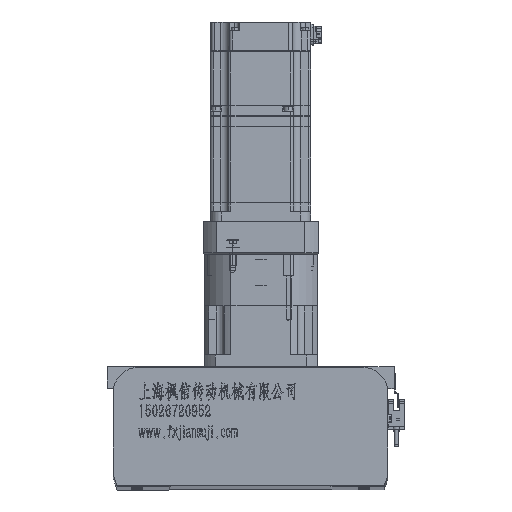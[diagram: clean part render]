
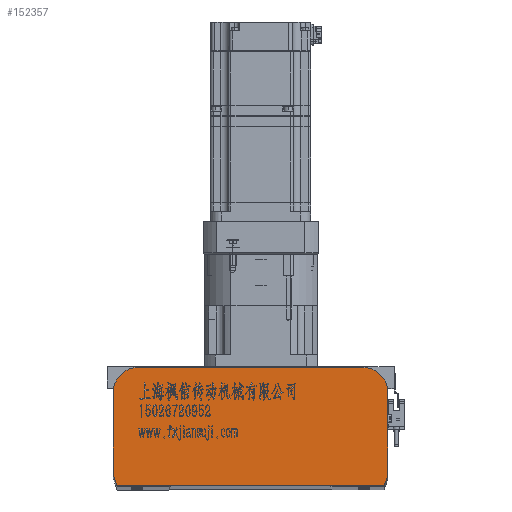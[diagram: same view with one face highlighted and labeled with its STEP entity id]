
A CAD part, top view. The second image highlights one B-rep face of the part: STEP entity #152357.
In plain terms, the highlighted planar face has unit normal (0, 0, 1).
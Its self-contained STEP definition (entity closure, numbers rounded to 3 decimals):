
#788 = AXIS2_PLACEMENT_3D ( 'NONE', #41191, #1766, #15190 ) ;
#1766 = DIRECTION ( 'NONE',  ( 0., 0., 1. ) ) ;
#7349 = DIRECTION ( 'NONE',  ( 0., 1., 0. ) ) ;
#7561 = EDGE_CURVE ( 'NONE', #93688, #109196, #78986, .T. ) ;
#9851 = EDGE_CURVE ( 'NONE', #92585, #39877, #149471, .T. ) ;
#10153 = PLANE ( 'NONE',  #32712 ) ;
#11033 = DIRECTION ( 'NONE',  ( 0., 0., 1. ) ) ;
#11441 = ORIENTED_EDGE ( 'NONE', *, *, #52591, .F. ) ;
#13487 = VECTOR ( 'NONE', #133552, 1000. ) ;
#14863 = CARTESIAN_POINT ( 'NONE',  ( -893.885, 1089.578, 1582. ) ) ;
#15190 = DIRECTION ( 'NONE',  ( 1., 0., 0. ) ) ;
#17876 = VERTEX_POINT ( 'NONE', #83049 ) ;
#18023 = EDGE_LOOP ( 'NONE', ( #174587, #173154, #82506, #149936, #100463, #165011, #11441, #24977, #103390, #113661 ) ) ;
#19765 = CARTESIAN_POINT ( 'NONE',  ( -673.874, -225.475, 1582. ) ) ;
#20581 = EDGE_CURVE ( 'NONE', #37241, #59599, #26670, .T. ) ;
#20606 = DIRECTION ( 'NONE',  ( 0., 0., -1. ) ) ;
#21648 = LINE ( 'NONE', #88820, #83349 ) ;
#24273 = DIRECTION ( 'NONE',  ( 1., 0., 0. ) ) ;
#24977 = ORIENTED_EDGE ( 'NONE', *, *, #159598, .F. ) ;
#25385 = CARTESIAN_POINT ( 'NONE',  ( -1111.346, 1081.992, 1582. ) ) ;
#25421 = CARTESIAN_POINT ( 'NONE',  ( -1110.935, 1081.078, 1582. ) ) ;
#26670 = CIRCLE ( 'NONE', #72430, 20. ) ;
#28751 = CARTESIAN_POINT ( 'NONE',  ( -1113.885, 1089.578, 1582. ) ) ;
#30154 = CARTESIAN_POINT ( 'NONE',  ( -1093.885, 1176.078, 1582. ) ) ;
#32712 = AXIS2_PLACEMENT_3D ( 'NONE', #64783, #11033, #67422 ) ;
#33156 = DIRECTION ( 'NONE',  ( 1., 0., 0. ) ) ;
#34764 = EDGE_CURVE ( 'NONE', #39877, #17876, #144854, .T. ) ;
#37241 = VERTEX_POINT ( 'NONE', #81794 ) ;
#39877 = VERTEX_POINT ( 'NONE', #98260 ) ;
#41191 = CARTESIAN_POINT ( 'NONE',  ( -1106.605, 1083.578, 1582. ) ) ;
#41924 = CIRCLE ( 'NONE', #130545, 20. ) ;
#42004 = AXIS2_PLACEMENT_3D ( 'NONE', #118511, #172995, #79940 ) ;
#46180 = CARTESIAN_POINT ( 'NONE',  ( -913.885, 1156.078, 1582. ) ) ;
#52591 = EDGE_CURVE ( 'NONE', #66926, #109196, #41924, .T. ) ;
#57265 = VECTOR ( 'NONE', #148000, 1000. ) ;
#59599 = VERTEX_POINT ( 'NONE', #30154 ) ;
#61792 = CARTESIAN_POINT ( 'NONE',  ( -1093.885, 1156.078, 1582. ) ) ;
#64783 = CARTESIAN_POINT ( 'NONE',  ( 0., 0., 1582. ) ) ;
#65779 = CARTESIAN_POINT ( 'NONE',  ( -1131.749, 378.678, 1582. ) ) ;
#66543 = CIRCLE ( 'NONE', #788, 5. ) ;
#66926 = VERTEX_POINT ( 'NONE', #138540 ) ;
#67422 = DIRECTION ( 'NONE',  ( 1., 0., 0. ) ) ;
#70354 = CARTESIAN_POINT ( 'NONE',  ( -893.885, 1156.078, 1582. ) ) ;
#72430 = AXIS2_PLACEMENT_3D ( 'NONE', #61792, #20606, #33156 ) ;
#73524 = LINE ( 'NONE', #19765, #161583 ) ;
#74408 = DIRECTION ( 'NONE',  ( -0.317, 0.948, 0. ) ) ;
#77813 = VERTEX_POINT ( 'NONE', #28751 ) ;
#78986 = LINE ( 'NONE', #150429, #13487 ) ;
#79940 = DIRECTION ( 'NONE',  ( 1., 0., 0. ) ) ;
#81794 = CARTESIAN_POINT ( 'NONE',  ( -1113.885, 1156.078, 1582. ) ) ;
#82506 = ORIENTED_EDGE ( 'NONE', *, *, #9851, .T. ) ;
#83049 = CARTESIAN_POINT ( 'NONE',  ( -896.423, 1081.992, 1582. ) ) ;
#83349 = VECTOR ( 'NONE', #7349, 1000. ) ;
#88820 = CARTESIAN_POINT ( 'NONE',  ( -1113.885, 0., 1582. ) ) ;
#92357 = CARTESIAN_POINT ( 'NONE',  ( 0., 1081.078, 1582. ) ) ;
#92585 = VERTEX_POINT ( 'NONE', #25421 ) ;
#93688 = VERTEX_POINT ( 'NONE', #14863 ) ;
#95304 = LINE ( 'NONE', #65779, #57265 ) ;
#98260 = CARTESIAN_POINT ( 'NONE',  ( -896.835, 1081.078, 1582. ) ) ;
#100463 = ORIENTED_EDGE ( 'NONE', *, *, #120150, .T. ) ;
#103390 = ORIENTED_EDGE ( 'NONE', *, *, #20581, .F. ) ;
#109142 = CARTESIAN_POINT ( 'NONE',  ( 0., 1176.078, 1582. ) ) ;
#109196 = VERTEX_POINT ( 'NONE', #70354 ) ;
#112582 = DIRECTION ( 'NONE',  ( 0., 0., -1. ) ) ;
#113661 = ORIENTED_EDGE ( 'NONE', *, *, #131483, .F. ) ;
#115958 = EDGE_CURVE ( 'NONE', #138895, #92585, #66543, .T. ) ;
#118511 = CARTESIAN_POINT ( 'NONE',  ( -901.165, 1083.578, 1582. ) ) ;
#120150 = EDGE_CURVE ( 'NONE', #17876, #93688, #95304, .T. ) ;
#128141 = VECTOR ( 'NONE', #165360, 1000. ) ;
#130545 = AXIS2_PLACEMENT_3D ( 'NONE', #46180, #112582, #167859 ) ;
#131483 = EDGE_CURVE ( 'NONE', #77813, #37241, #21648, .T. ) ;
#133552 = DIRECTION ( 'NONE',  ( 0., 1., 0. ) ) ;
#134888 = EDGE_CURVE ( 'NONE', #138895, #77813, #73524, .T. ) ;
#138540 = CARTESIAN_POINT ( 'NONE',  ( -913.885, 1176.078, 1582. ) ) ;
#138895 = VERTEX_POINT ( 'NONE', #25385 ) ;
#140180 = VECTOR ( 'NONE', #24273, 1000. ) ;
#144854 = CIRCLE ( 'NONE', #42004, 5. ) ;
#148000 = DIRECTION ( 'NONE',  ( 0.317, 0.948, 0. ) ) ;
#149471 = LINE ( 'NONE', #92357, #140180 ) ;
#149936 = ORIENTED_EDGE ( 'NONE', *, *, #34764, .T. ) ;
#150429 = CARTESIAN_POINT ( 'NONE',  ( -893.885, 0., 1582. ) ) ;
#152357 = ADVANCED_FACE ( 'NONE', ( #161339 ), #10153, .T. ) ;
#159598 = EDGE_CURVE ( 'NONE', #59599, #66926, #176213, .T. ) ;
#161339 = FACE_OUTER_BOUND ( 'NONE', #18023, .T. ) ;
#161583 = VECTOR ( 'NONE', #74408, 1000. ) ;
#165011 = ORIENTED_EDGE ( 'NONE', *, *, #7561, .T. ) ;
#165360 = DIRECTION ( 'NONE',  ( 1., 0., 0. ) ) ;
#167859 = DIRECTION ( 'NONE',  ( 1., 0., 0. ) ) ;
#172995 = DIRECTION ( 'NONE',  ( 0., 0., 1. ) ) ;
#173154 = ORIENTED_EDGE ( 'NONE', *, *, #115958, .T. ) ;
#174587 = ORIENTED_EDGE ( 'NONE', *, *, #134888, .F. ) ;
#176213 = LINE ( 'NONE', #109142, #128141 ) ;
